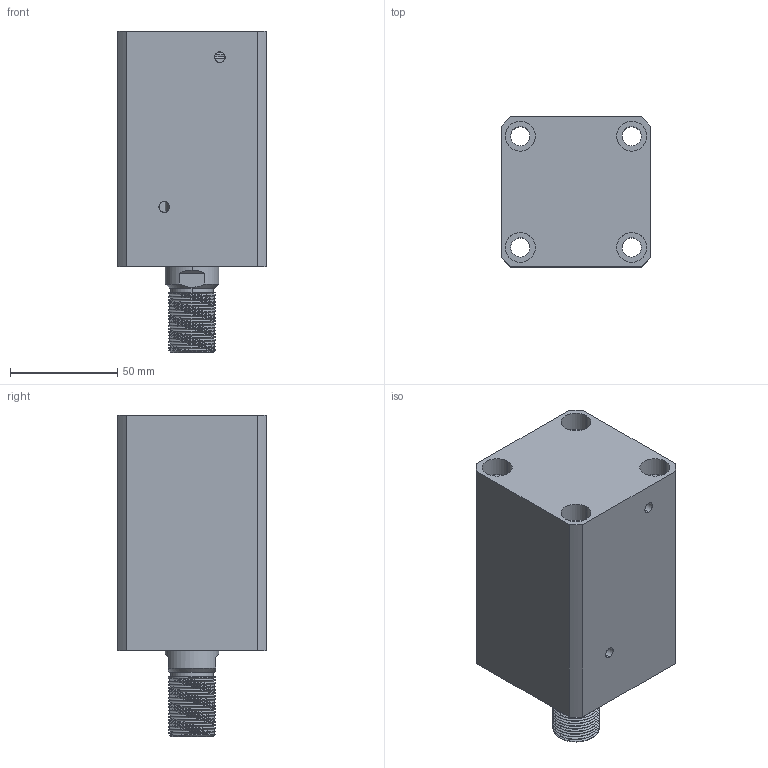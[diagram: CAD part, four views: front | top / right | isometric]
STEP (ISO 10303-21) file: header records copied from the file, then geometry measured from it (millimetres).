
FILE_DESCRIPTION (( 'STEP AP214' ), '1' );
FILE_NAME ('chtb-sdma40x55w_asm.STEP', '2018-06-05T08:47:20', ( 'Windows' ), ( 'Microsoft' ), 'SwSTEP 2.0', 'SolidWorks 2015', '' );
FILE_SCHEMA (( 'AUTOMOTIVE_DESIGN' ));
Length unit declared in the file: millimetre
Products named in the file (4): CHTB-SDMA40X55NBT; chtb-sdma40x55w_asm; CHTB-SD40QG; CHTB-SD40X55WHSG
Assembly tree (3 placements, depth 2):
  chtb-sdma40x55w_asm
    CHTB-SDMA40X55NBT
    CHTB-SD40X55WHSG
    CHTB-SD40QG
Bounding box: 70 x 70 x 150 mm (x, y, z)
Volume: 467382.8 mm3; surface area: 95066.1 mm2
Topology: 3 solids, 4 shells, 203 faces, 545 edges, 363 vertices
Faces by surface type: cylinder 122, plane 40, bspline 16, torus 14, cone 11
Entity records: 13587 total; most frequent: CARTESIAN_POINT 8658, ORIENTED_EDGE 1078, DIRECTION 914, EDGE_CURVE 539, AXIS2_PLACEMENT_3D 378, VERTEX_POINT 363, EDGE_LOOP 240, ADVANCED_FACE 203
